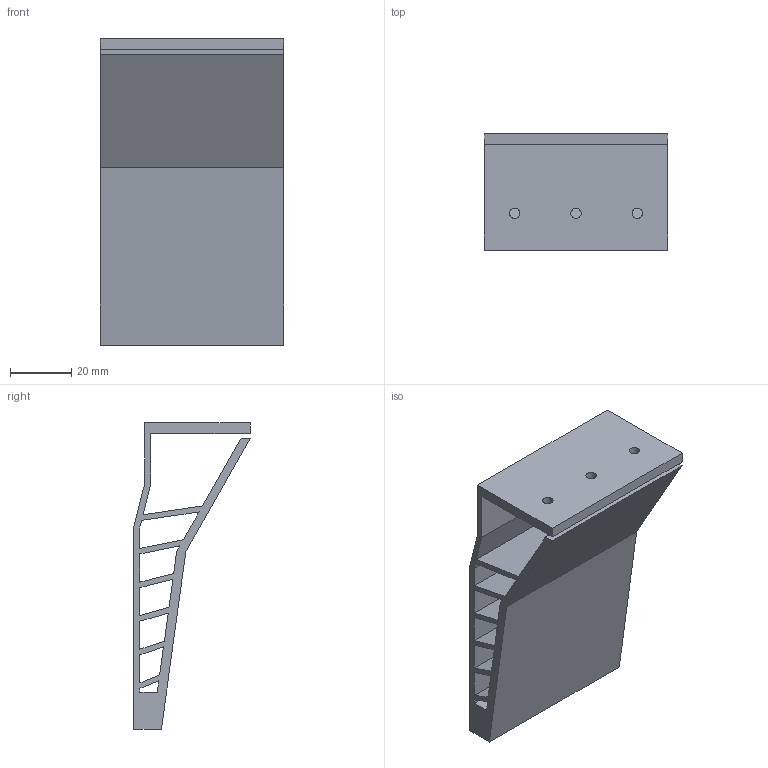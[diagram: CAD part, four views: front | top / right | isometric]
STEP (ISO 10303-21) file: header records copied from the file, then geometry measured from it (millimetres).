
FILE_DESCRIPTION(('Open CASCADE Model'),'2;1');
FILE_NAME('Open CASCADE Shape Model','2026-10-17T23:02:58',('Author'),( 'Open CASCADE'),'Open CASCADE STEP processor 7.9','Open CASCADE 7.9' ,'Unknown');
FILE_SCHEMA(('AUTOMOTIVE_DESIGN { 1 0 10303 214 1 1 1 1 }'));
Length unit declared in the file: millimetre
Products named in the file (1): Open CASCADE STEP translator 7.9 15
Bounding box: 60 x 38 x 100 mm (x, y, z)
Volume: 46257.5 mm3; surface area: 36532.3 mm2
Topology: 1 solids, 1 shells, 66 faces, 183 edges, 122 vertices
Faces by surface type: plane 45, cylinder 21
Full cylindrical faces by diameter (mm): 3 x18, 3.4 x3
Entity records: 4702 total; most frequent: CARTESIAN_POINT 954, DIRECTION 689, LINE 465, VECTOR 465, ORIENTED_EDGE 366, PCURVE 366, DEFINITIONAL_REPRESENTATION 366, EDGE_CURVE 183
